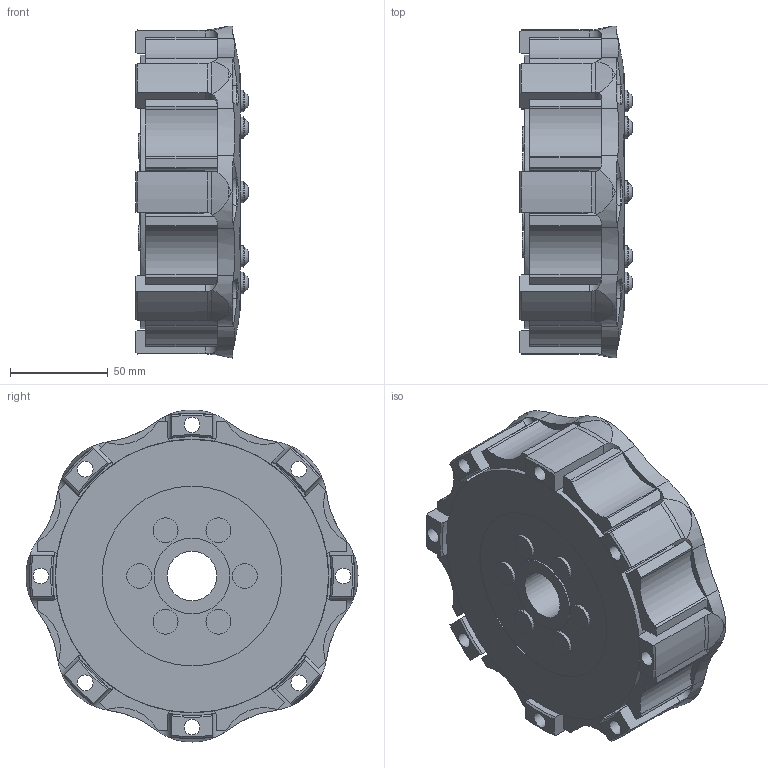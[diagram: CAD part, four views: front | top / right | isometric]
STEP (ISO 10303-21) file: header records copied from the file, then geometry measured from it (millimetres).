
FILE_DESCRIPTION(/* description */ ('Unknown'),/* implementation_level */ '2;1');
FILE_NAME(/* name */ '67-504HG-ACCC',/* time_stamp */ '2023-06-01T08:06:21-07:00',/* author */ ('Unknown'),/* organization */ ('Unknown'),/* preprocessor_version */ 'ST-DEVELOPER v16.7',/* originating_system */ 'DEX',/* authorisation */ $);
FILE_SCHEMA (('AUTOMOTIVE_DESIGN {1 0 10303 214 3 1 1}'));
Length unit declared in the file: millimetre
Products named in the file (1): 67-504HG-ACCC
Bounding box: 57.7 x 169.67 x 169.67 mm (x, y, z)
Volume: 802257.1 mm3; surface area: 140797.3 mm2
Topology: 1 solids, 1 shells, 615 faces, 1801 edges, 1194 vertices
Faces by surface type: cylinder 283, plane 248, cone 42, torus 34, sphere 8
Full cylindrical faces by diameter (mm): 8.077 x8, 9.22 x8, 11.176 x8, 12.7 x6, 25.4 x1, 38.837 x1, 71.12 x1, 76.2 x1, 91.948 x1, 139.7 x1, 142.697 x1
Entity records: 20777 total; most frequent: CARTESIAN_POINT 4581, ORIENTED_EDGE 3466, DIRECTION 3308, EDGE_CURVE 1733, AXIS2_PLACEMENT_3D 1255, VERTEX_POINT 1183, LINE 798, VECTOR 798
